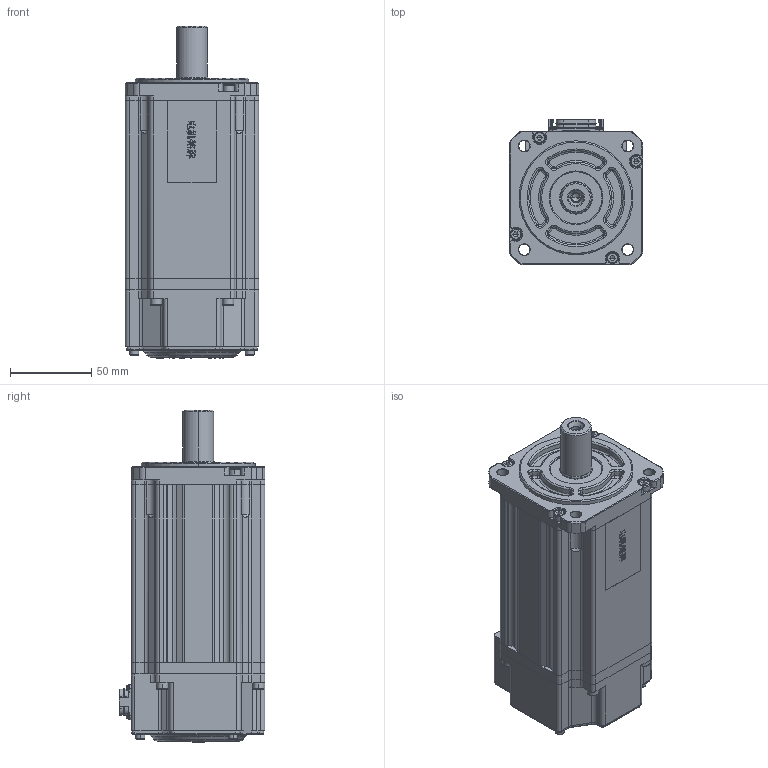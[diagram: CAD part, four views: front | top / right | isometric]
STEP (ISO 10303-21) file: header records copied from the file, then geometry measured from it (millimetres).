
FILE_DESCRIPTION (( 'STEP AP203' ), '1' );
FILE_NAME ('MC20-080-3L30-N102-1¡õCL-NNNN.STEP', '2026-04-20T15:25:56', ( '' ), ( '' ), 'SwSTEP 2.0', 'SolidWorks 2014', '' );
FILE_SCHEMA (( 'CONFIG_CONTROL_DESIGN' ));
Products named in the file (1): MC20-080-3L30-N102-1¡õCL-NNNN
Bounding box: 82 x 89.65 x 204 mm (x, y, z)
Volume: 1053267 mm3; surface area: 138442.6 mm2
Topology: 18 solids, 22 shells, 2291 faces, 6015 edges, 3836 vertices
Faces by surface type: plane 1050, cylinder 600, bspline 340, cone 183, torus 118
Entity records: 90899 total; most frequent: CARTESIAN_POINT 37057, ORIENTED_EDGE 11880, DIRECTION 9996, EDGE_CURVE 5940, VERTEX_POINT 3836, VECTOR 3382, LINE 3382, AXIS2_PLACEMENT_3D 3307
